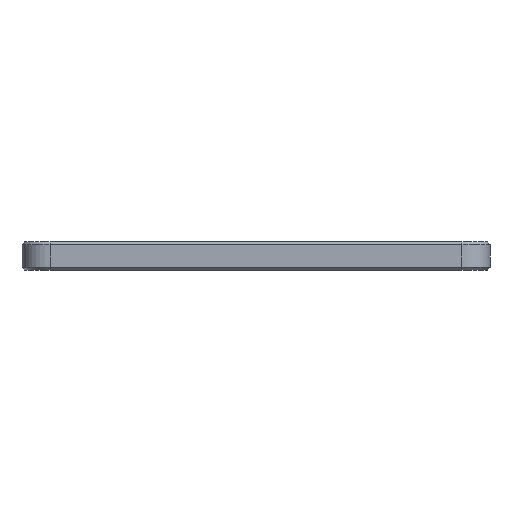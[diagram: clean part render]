
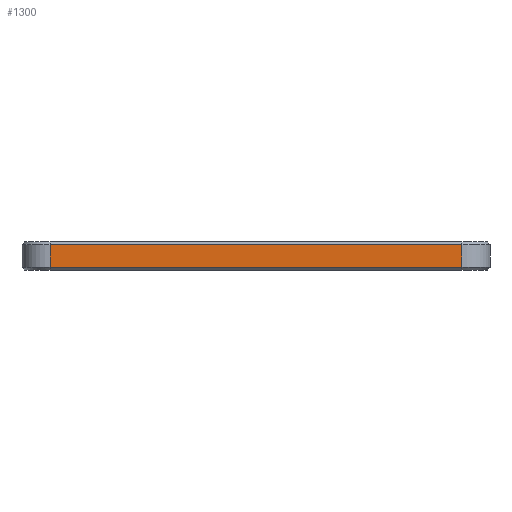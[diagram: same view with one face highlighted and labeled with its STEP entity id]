
A CAD part, left-side view. The second image highlights one B-rep face of the part: STEP entity #1300.
In plain terms, the highlighted planar face has unit normal (-1, 0, 0).
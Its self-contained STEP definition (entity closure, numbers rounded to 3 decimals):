
#66 = CARTESIAN_POINT ( 'NONE',  ( -60.398, -7.037, 0.717 ) ) ;
#111 = DIRECTION ( 'NONE',  ( 0., 1., 0. ) ) ;
#118 = DIRECTION ( 'NONE',  ( -1., 0., 0. ) ) ;
#171 = EDGE_CURVE ( 'NONE', #1566, #546, #1675, .T. ) ;
#187 = ORIENTED_EDGE ( 'NONE', *, *, #171, .T. ) ;
#217 = DIRECTION ( 'NONE',  ( 0., -1., 0. ) ) ;
#243 = DIRECTION ( 'NONE',  ( 0., 0., 1. ) ) ;
#246 = CARTESIAN_POINT ( 'NONE',  ( -60.398, 36.963, 3.117 ) ) ;
#274 = ORIENTED_EDGE ( 'NONE', *, *, #1629, .F. ) ;
#295 = LINE ( 'NONE', #474, #1654 ) ;
#328 = EDGE_LOOP ( 'NONE', ( #274, #187, #1262, #1078 ) ) ;
#407 = AXIS2_PLACEMENT_3D ( 'NONE', #673, #118, #243 ) ;
#474 = CARTESIAN_POINT ( 'NONE',  ( -60.398, -7.037, 0.417 ) ) ;
#508 = VERTEX_POINT ( 'NONE', #903 ) ;
#514 = VECTOR ( 'NONE', #1623, 1000. ) ;
#546 = VERTEX_POINT ( 'NONE', #66 ) ;
#644 = VECTOR ( 'NONE', #111, 1000. ) ;
#673 = CARTESIAN_POINT ( 'NONE',  ( -60.398, 36.963, 0.417 ) ) ;
#769 = FACE_OUTER_BOUND ( 'NONE', #328, .T. ) ;
#811 = PLANE ( 'NONE',  #407 ) ;
#880 = VECTOR ( 'NONE', #217, 1000. ) ;
#903 = CARTESIAN_POINT ( 'NONE',  ( -60.398, -7.037, 3.117 ) ) ;
#1060 = CARTESIAN_POINT ( 'NONE',  ( -60.398, -7.037, 0.717 ) ) ;
#1078 = ORIENTED_EDGE ( 'NONE', *, *, #1519, .T. ) ;
#1119 = VERTEX_POINT ( 'NONE', #1533 ) ;
#1139 = EDGE_CURVE ( 'NONE', #546, #508, #295, .T. ) ;
#1156 = LINE ( 'NONE', #1758, #514 ) ;
#1262 = ORIENTED_EDGE ( 'NONE', *, *, #1139, .T. ) ;
#1300 = ADVANCED_FACE ( 'NONE', ( #769 ), #811, .T. ) ;
#1461 = LINE ( 'NONE', #246, #644 ) ;
#1519 = EDGE_CURVE ( 'NONE', #508, #1119, #1461, .T. ) ;
#1533 = CARTESIAN_POINT ( 'NONE',  ( -60.398, 36.963, 3.117 ) ) ;
#1566 = VERTEX_POINT ( 'NONE', #1749 ) ;
#1623 = DIRECTION ( 'NONE',  ( 0., 0., 1. ) ) ;
#1629 = EDGE_CURVE ( 'NONE', #1566, #1119, #1156, .T. ) ;
#1654 = VECTOR ( 'NONE', #1682, 1000. ) ;
#1675 = LINE ( 'NONE', #1060, #880 ) ;
#1682 = DIRECTION ( 'NONE',  ( 0., 0., 1. ) ) ;
#1749 = CARTESIAN_POINT ( 'NONE',  ( -60.398, 36.963, 0.717 ) ) ;
#1758 = CARTESIAN_POINT ( 'NONE',  ( -60.398, 36.963, 0.417 ) ) ;
